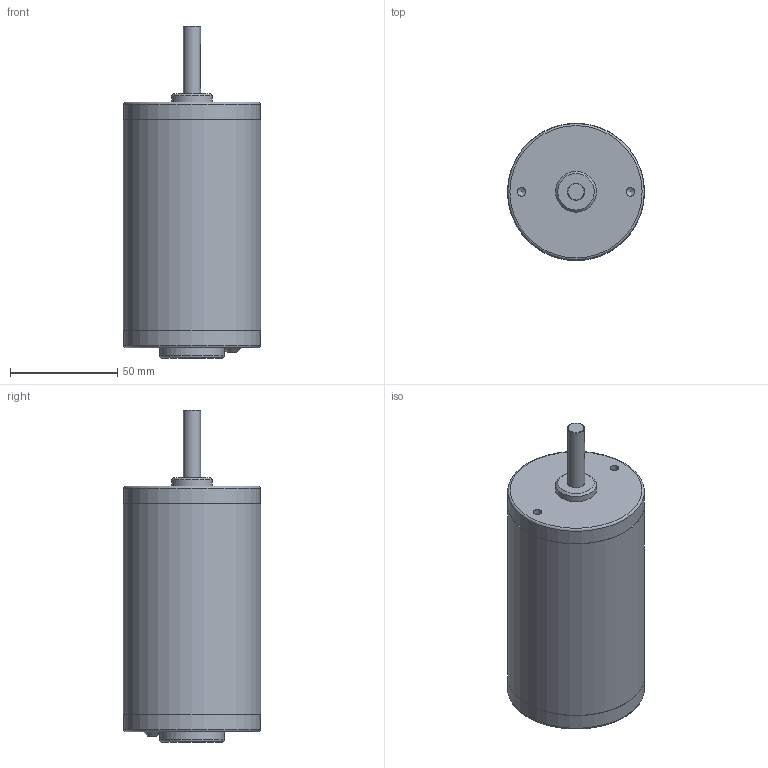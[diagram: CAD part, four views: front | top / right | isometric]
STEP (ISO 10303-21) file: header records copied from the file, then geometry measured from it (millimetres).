
FILE_DESCRIPTION(/* description */ (''),/* implementation_level */ '2;1');
FILE_NAME(/* name */ 'CIM Motor .step',/* time_stamp */ '2022-12-29T16:09:25-08:00',/* author */ (''),/* organization */ (''),/* preprocessor_version */ 'ST-DEVELOPER v19.2',/* originating_system */ 'Autodesk Translation Framework v11.17.0.187',/* authorisation */ '');
FILE_SCHEMA (('AUTOMOTIVE_DESIGN { 1 0 10303 214 3 1 1 }'));
Length unit declared in the file: millimetre
Products named in the file (1): CIM Motor
Bounding box: 64.01 x 64.01 x 154.93 mm (x, y, z)
Volume: 374092 mm3; surface area: 31133.6 mm2
Topology: 1 solids, 1 shells, 33 faces, 67 edges, 43 vertices
Faces by surface type: cylinder 12, plane 12, cone 5, torus 4
Full cylindrical faces by diameter (mm): 4.039 x2, 8 x1, 8.636 x2, 19.05 x1, 30.074 x1, 63.754 x2, 64.008 x1
Entity records: 986 total; most frequent: CARTESIAN_POINT 178, DIRECTION 166, ORIENTED_EDGE 130, AXIS2_PLACEMENT_3D 71, EDGE_CURVE 65, VERTEX_POINT 43, EDGE_LOOP 42, CIRCLE 37
